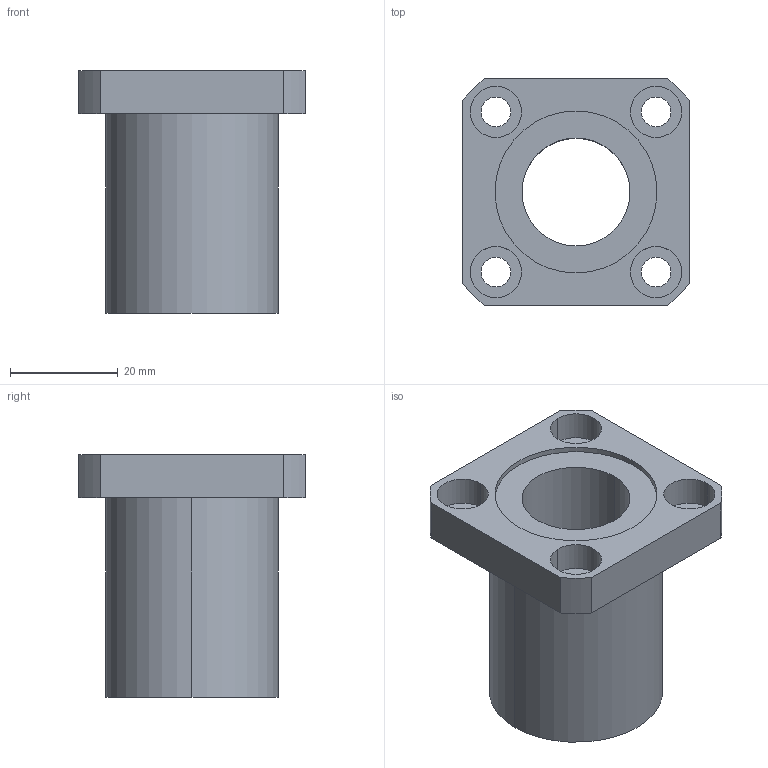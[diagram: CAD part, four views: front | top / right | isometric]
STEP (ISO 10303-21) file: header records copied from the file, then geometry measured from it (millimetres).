
FILE_DESCRIPTION((''),'2;1');
FILE_NAME('C:\Documents and Settings\ｿﾀﾀ蠑ｷ1\ｹﾙﾅﾁ ﾈｭｸ饅\ｺﾎﾇｰﾆﾄﾀﾏ\ﾁｦﾇｰ\LMEK__UU\LMEK20UU.stp','2005-06-15T10:58:27',('ｿﾀﾀ蠑ｷ1'),(''),'Autodesk Inventor 9','Autodesk Inventor 9','');
FILE_SCHEMA(('AUTOMOTIVE_DESIGN { 1 0 10303 214 1 1 1 1 }'));
Length unit declared in the file: millimetre
Products named in the file (1): LMEK__(L)
Bounding box: 42 x 42 x 45 mm (x, y, z)
Volume: 26927.2 mm3; surface area: 11352.2 mm2
Topology: 1 solids, 1 shells, 41 faces, 96 edges, 64 vertices
Faces by surface type: bspline 20, cylinder 12, plane 9
Entity records: 1457 total; most frequent: CARTESIAN_POINT 486, DIRECTION 196, ORIENTED_EDGE 192, EDGE_CURVE 96, AXIS2_PLACEMENT_3D 78, VERTEX_POINT 64, EDGE_LOOP 58, CIRCLE 56
